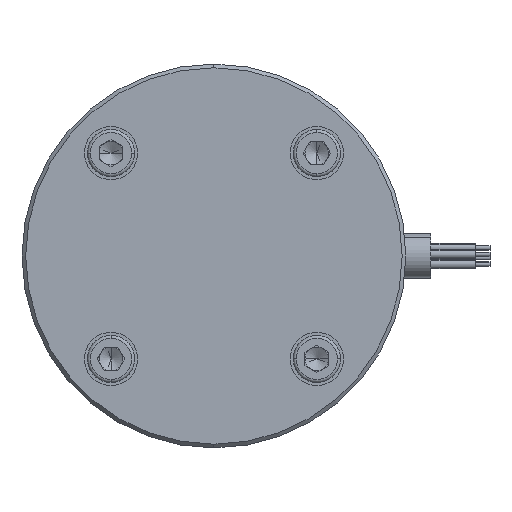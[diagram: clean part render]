
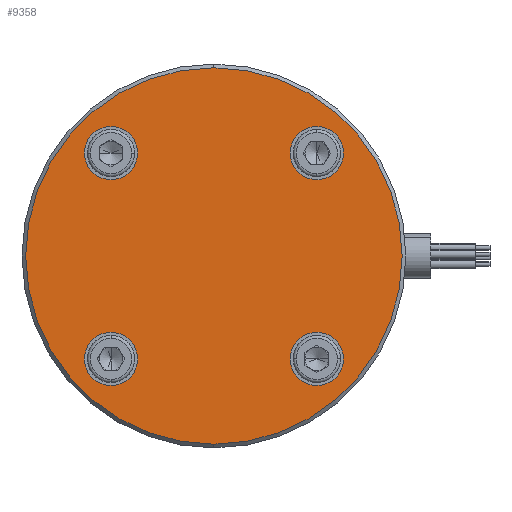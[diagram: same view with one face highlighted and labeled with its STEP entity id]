
A CAD part, left-side view. The second image highlights one B-rep face of the part: STEP entity #9358.
In plain terms, the highlighted planar face has unit normal (-1, 0, 0).
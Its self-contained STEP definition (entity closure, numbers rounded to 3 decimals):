
#4 = VERTEX_POINT ( 'NONE', #4216 ) ;
#78 = EDGE_LOOP ( 'NONE', ( #3218, #2589 ) ) ;
#217 = DIRECTION ( 'NONE',  ( -1., 0., 0. ) ) ;
#287 = DIRECTION ( 'NONE',  ( 0., 0., -1. ) ) ;
#326 = EDGE_CURVE ( 'NONE', #1072, #9464, #9503, .T. ) ;
#541 = DIRECTION ( 'NONE',  ( -1., 0., 0. ) ) ;
#636 = FACE_OUTER_BOUND ( 'NONE', #7273, .T. ) ;
#684 = DIRECTION ( 'NONE',  ( 0., 0., -1. ) ) ;
#776 = CARTESIAN_POINT ( 'NONE',  ( -9., -34.856, -34.856 ) ) ;
#965 = CARTESIAN_POINT ( 'NONE',  ( -9., 34.856, 43.856 ) ) ;
#1072 = VERTEX_POINT ( 'NONE', #4690 ) ;
#1145 = ORIENTED_EDGE ( 'NONE', *, *, #1616, .F. ) ;
#1174 = CIRCLE ( 'NONE', #7215, 9. ) ;
#1528 = DIRECTION ( 'NONE',  ( 0., 0., 1. ) ) ;
#1616 = EDGE_CURVE ( 'NONE', #3229, #3064, #6740, .T. ) ;
#1901 = AXIS2_PLACEMENT_3D ( 'NONE', #8649, #2041, #1997 ) ;
#1997 = DIRECTION ( 'NONE',  ( 0., 0., 1. ) ) ;
#2041 = DIRECTION ( 'NONE',  ( -1., 0., 0. ) ) ;
#2073 = DIRECTION ( 'NONE',  ( 0., 0., 1. ) ) ;
#2193 = CARTESIAN_POINT ( 'NONE',  ( -9., -34.856, 34.856 ) ) ;
#2201 = EDGE_CURVE ( 'NONE', #4, #6602, #5776, .T. ) ;
#2216 = CARTESIAN_POINT ( 'NONE',  ( -9., 0., 63.75 ) ) ;
#2231 = CARTESIAN_POINT ( 'NONE',  ( -9., -34.856, 43.856 ) ) ;
#2243 = VERTEX_POINT ( 'NONE', #3926 ) ;
#2531 = AXIS2_PLACEMENT_3D ( 'NONE', #776, #8180, #1528 ) ;
#2536 = CARTESIAN_POINT ( 'NONE',  ( -9., -34.856, -43.856 ) ) ;
#2589 = ORIENTED_EDGE ( 'NONE', *, *, #7600, .F. ) ;
#2861 = CIRCLE ( 'NONE', #5171, 9. ) ;
#3017 = DIRECTION ( 'NONE',  ( 0., 0., 1. ) ) ;
#3064 = VERTEX_POINT ( 'NONE', #6111 ) ;
#3218 = ORIENTED_EDGE ( 'NONE', *, *, #7633, .F. ) ;
#3229 = VERTEX_POINT ( 'NONE', #2216 ) ;
#3415 = AXIS2_PLACEMENT_3D ( 'NONE', #8863, #3490, #684 ) ;
#3439 = ORIENTED_EDGE ( 'NONE', *, *, #4714, .F. ) ;
#3450 = EDGE_LOOP ( 'NONE', ( #9347, #4668 ) ) ;
#3488 = ORIENTED_EDGE ( 'NONE', *, *, #4007, .F. ) ;
#3490 = DIRECTION ( 'NONE',  ( 1., 0., 0. ) ) ;
#3507 = CIRCLE ( 'NONE', #7218, 9. ) ;
#3584 = FACE_BOUND ( 'NONE', #5336, .T. ) ;
#3707 = DIRECTION ( 'NONE',  ( -1., 0., 0. ) ) ;
#3819 = EDGE_CURVE ( 'NONE', #3064, #3229, #5038, .T. ) ;
#3926 = CARTESIAN_POINT ( 'NONE',  ( -9., 34.856, 25.856 ) ) ;
#4007 = EDGE_CURVE ( 'NONE', #6602, #4, #9084, .T. ) ;
#4029 = EDGE_CURVE ( 'NONE', #8025, #4385, #3507, .T. ) ;
#4154 = DIRECTION ( 'NONE',  ( -1., 0., 0. ) ) ;
#4193 = EDGE_LOOP ( 'NONE', ( #9087, #3439 ) ) ;
#4216 = CARTESIAN_POINT ( 'NONE',  ( -9., -34.856, -25.856 ) ) ;
#4385 = VERTEX_POINT ( 'NONE', #2231 ) ;
#4668 = ORIENTED_EDGE ( 'NONE', *, *, #4029, .F. ) ;
#4690 = CARTESIAN_POINT ( 'NONE',  ( -9., 34.856, -25.856 ) ) ;
#4714 = EDGE_CURVE ( 'NONE', #9464, #1072, #1174, .T. ) ;
#4862 = ORIENTED_EDGE ( 'NONE', *, *, #3819, .F. ) ;
#4999 = CARTESIAN_POINT ( 'NONE',  ( -9., -34.856, 34.856 ) ) ;
#5038 = CIRCLE ( 'NONE', #9079, 63.75 ) ;
#5127 = FACE_BOUND ( 'NONE', #4193, .T. ) ;
#5143 = DIRECTION ( 'NONE',  ( -1., 0., 0. ) ) ;
#5171 = AXIS2_PLACEMENT_3D ( 'NONE', #8344, #5237, #3017 ) ;
#5237 = DIRECTION ( 'NONE',  ( -1., 0., 0. ) ) ;
#5295 = CARTESIAN_POINT ( 'NONE',  ( -9., 0., 0. ) ) ;
#5336 = EDGE_LOOP ( 'NONE', ( #5830, #3488 ) ) ;
#5350 = DIRECTION ( 'NONE',  ( 0., 0., -1. ) ) ;
#5357 = DIRECTION ( 'NONE',  ( 1., 0., 0. ) ) ;
#5366 = CARTESIAN_POINT ( 'NONE',  ( -9., 34.856, -43.856 ) ) ;
#5400 = DIRECTION ( 'NONE',  ( 1., 0., 0. ) ) ;
#5488 = EDGE_CURVE ( 'NONE', #4385, #8025, #8463, .T. ) ;
#5648 = AXIS2_PLACEMENT_3D ( 'NONE', #7725, #5357, #287 ) ;
#5776 = CIRCLE ( 'NONE', #2531, 9. ) ;
#5830 = ORIENTED_EDGE ( 'NONE', *, *, #2201, .F. ) ;
#5855 = FACE_BOUND ( 'NONE', #78, .T. ) ;
#6011 = DIRECTION ( 'NONE',  ( 0., 0., 1. ) ) ;
#6111 = CARTESIAN_POINT ( 'NONE',  ( -9., 0., -63.75 ) ) ;
#6602 = VERTEX_POINT ( 'NONE', #2536 ) ;
#6604 = CARTESIAN_POINT ( 'NONE',  ( -9., -34.856, -34.856 ) ) ;
#6740 = CIRCLE ( 'NONE', #5648, 63.75 ) ;
#6743 = CARTESIAN_POINT ( 'NONE',  ( -9., 34.856, 34.856 ) ) ;
#7101 = VERTEX_POINT ( 'NONE', #965 ) ;
#7215 = AXIS2_PLACEMENT_3D ( 'NONE', #7266, #541, #2073 ) ;
#7218 = AXIS2_PLACEMENT_3D ( 'NONE', #2193, #5143, #8884 ) ;
#7266 = CARTESIAN_POINT ( 'NONE',  ( -9., 34.856, -34.856 ) ) ;
#7273 = EDGE_LOOP ( 'NONE', ( #1145, #4862 ) ) ;
#7523 = AXIS2_PLACEMENT_3D ( 'NONE', #6604, #3707, #8836 ) ;
#7600 = EDGE_CURVE ( 'NONE', #2243, #7101, #2861, .T. ) ;
#7633 = EDGE_CURVE ( 'NONE', #7101, #2243, #8894, .T. ) ;
#7648 = AXIS2_PLACEMENT_3D ( 'NONE', #6743, #217, #6011 ) ;
#7725 = CARTESIAN_POINT ( 'NONE',  ( -9., 0., 0. ) ) ;
#7929 = PLANE ( 'NONE',  #3415 ) ;
#7992 = AXIS2_PLACEMENT_3D ( 'NONE', #4999, #4154, #8606 ) ;
#8025 = VERTEX_POINT ( 'NONE', #8335 ) ;
#8180 = DIRECTION ( 'NONE',  ( -1., 0., 0. ) ) ;
#8335 = CARTESIAN_POINT ( 'NONE',  ( -9., -34.856, 25.856 ) ) ;
#8344 = CARTESIAN_POINT ( 'NONE',  ( -9., 34.856, 34.856 ) ) ;
#8463 = CIRCLE ( 'NONE', #7992, 9. ) ;
#8606 = DIRECTION ( 'NONE',  ( 0., 0., 1. ) ) ;
#8649 = CARTESIAN_POINT ( 'NONE',  ( -9., 34.856, -34.856 ) ) ;
#8718 = FACE_BOUND ( 'NONE', #3450, .T. ) ;
#8836 = DIRECTION ( 'NONE',  ( 0., 0., 1. ) ) ;
#8863 = CARTESIAN_POINT ( 'NONE',  ( -9., 0., 0. ) ) ;
#8884 = DIRECTION ( 'NONE',  ( 0., 0., 1. ) ) ;
#8894 = CIRCLE ( 'NONE', #7648, 9. ) ;
#9079 = AXIS2_PLACEMENT_3D ( 'NONE', #5295, #5400, #5350 ) ;
#9084 = CIRCLE ( 'NONE', #7523, 9. ) ;
#9087 = ORIENTED_EDGE ( 'NONE', *, *, #326, .F. ) ;
#9347 = ORIENTED_EDGE ( 'NONE', *, *, #5488, .F. ) ;
#9358 = ADVANCED_FACE ( 'NONE', ( #5855, #8718, #3584, #5127, #636 ), #7929, .F. ) ;
#9464 = VERTEX_POINT ( 'NONE', #5366 ) ;
#9503 = CIRCLE ( 'NONE', #1901, 9. ) ;
